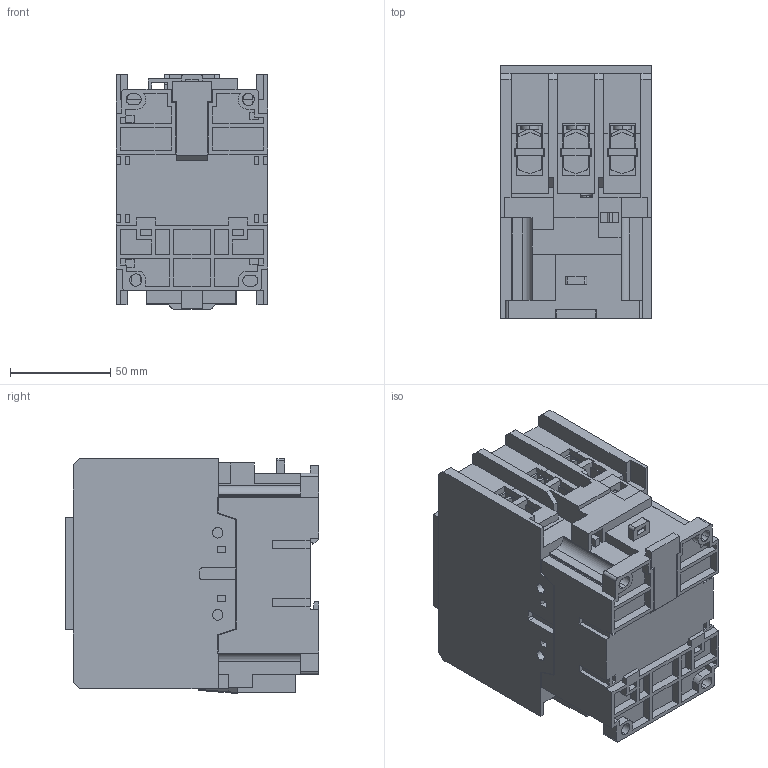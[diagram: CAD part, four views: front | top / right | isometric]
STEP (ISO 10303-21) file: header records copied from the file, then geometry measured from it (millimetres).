
FILE_DESCRIPTION (( 'STEP AP203' ), '1' );
FILE_NAME ('CWL110.STEP', '2019-06-25T11:13:12', ( 'Usuário do Windows' ), ( 'WEG Equipamentos Elétricos' ), 'SwSTEP 2.0', 'SolidWorks 2018', '' );
FILE_SCHEMA (( 'CONFIG_CONTROL_DESIGN' ));
Length unit declared in the file: millimetre
Products named in the file (2): CWL110
Bounding box: 75.35 x 126 x 117 mm (x, y, z)
Volume: 869749.6 mm3; surface area: 100861.2 mm2
Topology: 1 solids, 4 shells, 1109 faces, 2951 edges, 1930 vertices
Faces by surface type: plane 985, cylinder 108, cone 10, bspline 6
Entity records: 34321 total; most frequent: CARTESIAN_POINT 6339, ORIENTED_EDGE 5902, DIRECTION 5407, EDGE_CURVE 2951, LINE 2641, VECTOR 2641, VERTEX_POINT 1930, AXIS2_PLACEMENT_3D 1383
